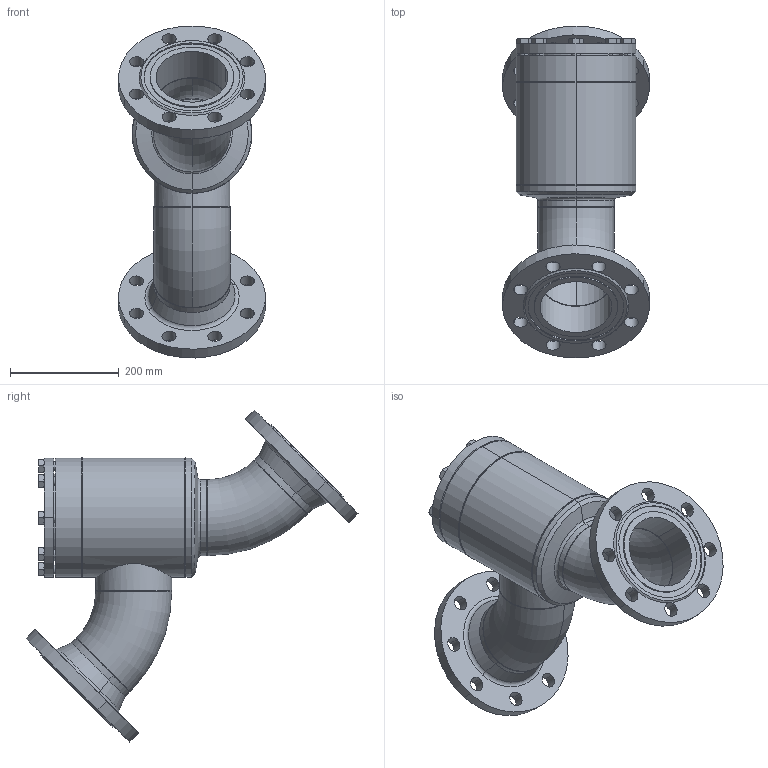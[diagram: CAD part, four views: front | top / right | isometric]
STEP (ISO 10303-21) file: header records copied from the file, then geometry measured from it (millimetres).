
FILE_DESCRIPTION (( 'STEP AP214' ), '1' );
FILE_NAME ('SS52320D20-DN125_DIN-FL-N_PS40.STEP', '2006-05-02T05:48:59', ( 'Herr Grams' ), ( 'AWP GmbH' ), 'SwSTEP 2.0', 'SolidWorks 2002296', '' );
FILE_SCHEMA (( 'AUTOMOTIVE_DESIGN' ));
Length unit declared in the file: millimetre
Products named in the file (18): SS52320D20-DN125_DIN-FL-N_PS40; SS52300E20_Deck+Schr-DN125_Standard; Deckel52300E20-DN125_Standard; Sechskantschraube-DIN933_M16x 45; Gehäuse-kpl16320-DN125_DIN_PS40_Standard; Flansch-DIN-Nut_PS40_DIN-Flansch-DN125_PS40-Nut; Gehäuse-kpl16300-DN125_R1_Standard; Rohrstutzen-A16300-DN125_R1_Standard; Boden16300-DN125_Standard; Gehäuse16300-DN125_Standard; Kopfstück16300-DN125_Standard; Rohrbogen 45°_Rohrbogen-DN125-45°; bead-DN125-1_Standard; bead-DN125-2_Standard; bead-DN125-4_Standard; bead-DN125-3_Standard; bead-DN125-6_Standard; bead-DN125-7_Standard
Assembly tree (26 placements, depth 4):
  SS52320D20-DN125_DIN-FL-N_PS40
    Gehäuse-kpl16320-DN125_DIN_PS40_Standard
      Gehäuse-kpl16300-DN125_R1_Standard
        bead-DN125-2_Standard
        bead-DN125-4_Standard
        Gehäuse16300-DN125_Standard
        bead-DN125-3_Standard
        Kopfstück16300-DN125_Standard
        bead-DN125-1_Standard
        Rohrstutzen-A16300-DN125_R1_Standard
        Rohrbogen 45°_Rohrbogen-DN125-45°  x2
        Boden16300-DN125_Standard
      Flansch-DIN-Nut_PS40_DIN-Flansch-DN125_PS40-Nut  x2
      bead-DN125-7_Standard
      bead-DN125-6_Standard
    SS52300E20_Deck+Schr-DN125_Standard
      Sechskantschraube-DIN933_M16x 45  x8
      Deckel52300E20-DN125_Standard
Bounding box: 269.74 x 609.58 x 609.58 mm (x, y, z)
Volume: 6748183.6 mm3; surface area: 1279785.7 mm2
Topology: 23 solids, 23 shells, 393 faces, 882 edges, 536 vertices
Faces by surface type: cone 128, plane 114, cylinder 113, bspline 24, torus 14
Entity records: 9215 total; most frequent: CARTESIAN_POINT 4358, DIRECTION 852, ORIENTED_EDGE 804, EDGE_CURVE 402, AXIS2_PLACEMENT_3D 378, VERTEX_POINT 254, EDGE_LOOP 230, CIRCLE 196
